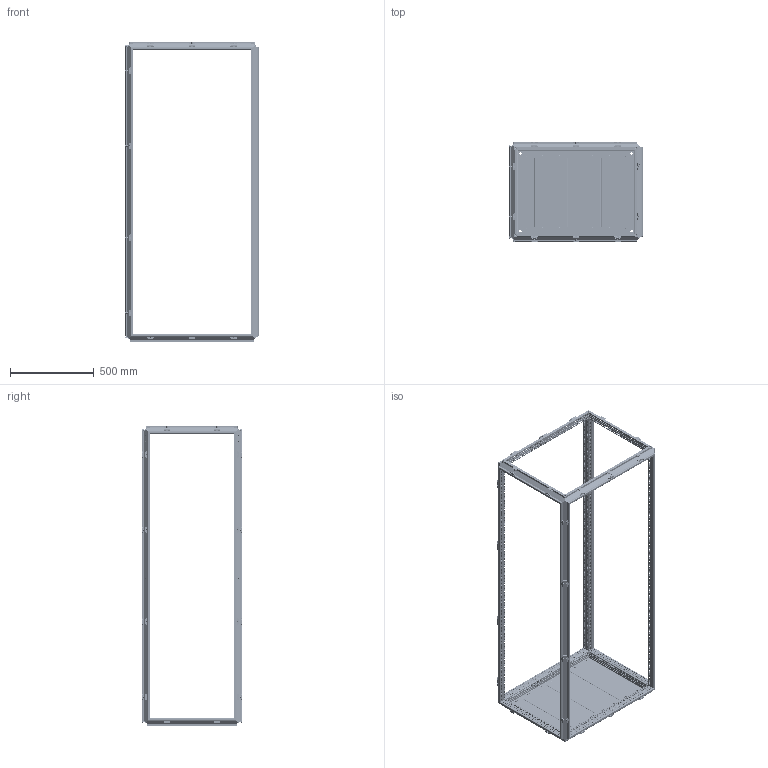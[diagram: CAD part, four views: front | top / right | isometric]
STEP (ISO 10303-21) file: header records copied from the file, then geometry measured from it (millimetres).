
FILE_DESCRIPTION(('STEP AP203'), '1');
FILE_NAME('3000 忺謤僔 捘', '', ('UNSPECIFIED'), ('UNSPECIFIED'), 'C3D Converter', 'C3D Toolkit', '');
FILE_SCHEMA(('CONFIG_CONTROL_DESIGN'));
Length unit declared in the file: millimetre
Products named in the file (13): 3000.180.60.80 СБ; 3000; 3007.175; 3007.75; 3007.200; 3009.04; 3009.04.01; 3009.04.2; 3009.04.01.2
Assembly tree (150 placements, depth 3):
  3000.180.60.80 СБ
    3000
    (unnamed)  x96
    3007.175
    (unnamed)  x14
    3007.75
    3007.200  x2
    3009.04  x10
      3009.04.01
      (unnamed)
      (unnamed)
    3009.04.2  x16
      3009.04.01.2
      (unnamed)
      (unnamed)
Bounding box: 797 x 597 x 1798.5 mm (x, y, z)
Volume: 3807234.2 mm3; surface area: 5049766.4 mm2
Topology: 251 solids, 251 shells, 17503 faces, 48815 edges, 32196 vertices
Faces by surface type: plane 12131, cylinder 4344, cone 692, torus 252, bspline 84
Full cylindrical faces by diameter (mm): 4.134 x138, 4.5 x1852, 4.8 x14, 5 x148, 5.8 x42, 6.8 x192, 7 x96, 7.5 x52, 8 x96, 9.2 x52, 10.106 x8, 14 x4
Entity records: 377006 total; most frequent: CARTESIAN_POINT 68839, ORIENTED_EDGE 60614, DIRECTION 57461, EDGE_CURVE 30307, LINE 24875, VECTOR 24875, VERTEX_POINT 21346, EDGE_LOOP 20631
